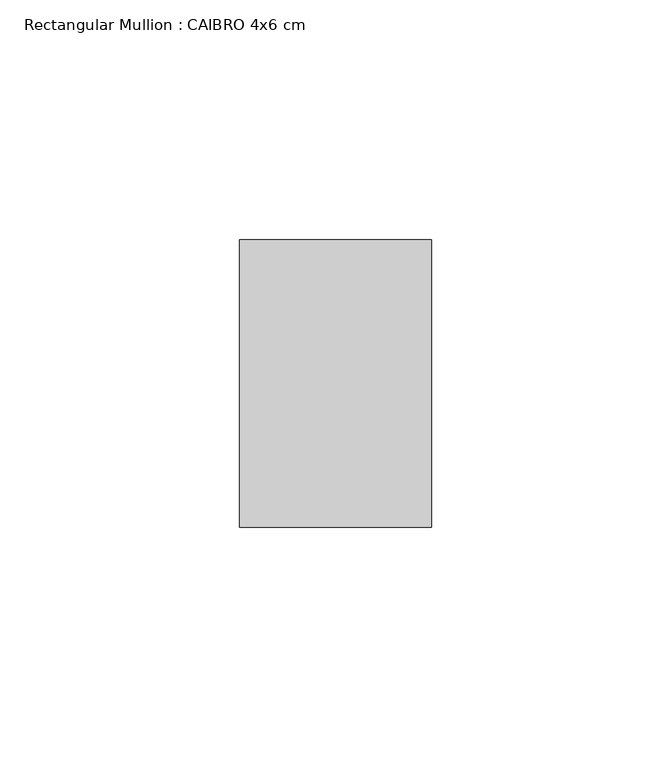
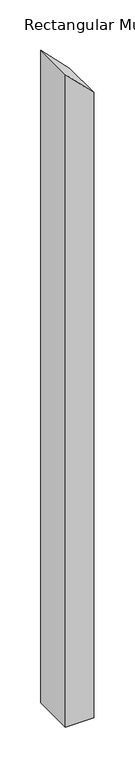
"""IFC4 building model written with IfcOpenShell, lengths in millimetres: member geometry, Rectangular Mullion : CAIBRO 4x6 cm."""

from ifc_helpers import new_model, si_unit, frame, origin, place, context, project, spatial, polyline, outline, extrude, source, transform, mapped, element, save


def rectangular_mullion_caibro_4x6_cm_8b7b774c(model_context):
    return source(origin(), model_context, "Body", "SweptSolid", [
        extrude(outline(polyline([(-77.109599, 20.0), (-36.6621022, -20.0), (-1009.5884118, -20.0), (-1009.5884118, 20.0), (-77.109599, 20.0)])), frame((0.0, 0.0, 0.0), z_axis=(0.0, 1.0, 0.0), x_axis=(0.0, 0.0, 1.0)), (0.0, 0.0, 1.0), 60.0),
    ])


if __name__ == "__main__":
    model = new_model("IFC4")
    model_context = context("Model", 3, world=origin())
    ifc_project = project(units=[si_unit("LENGTHUNIT", "METRE", prefix="MILLI")], contexts=[model_context])
    site = spatial("IfcSite", under=ifc_project)
    building = spatial("IfcBuilding", under=site)
    placement = place(None, origin())
    rectangular_mullion_caibro_4x6_cm_shape = rectangular_mullion_caibro_4x6_cm_8b7b774c(model_context)
    element("IfcMember", 1, ObjectType="Rectangular Mullion : CAIBRO 4x6 cm", at=placement, inside=building, context=model_context, shape_type="MappedRepresentation", body=[
        mapped(rectangular_mullion_caibro_4x6_cm_shape, transform((0.0, 0.0, 0.0), x_axis=(1.0, 0.0, 0.0), y_axis=(0.0, 1.0, 0.0), z_axis=(0.0, 0.0, 1.0))),
    ])
    save(model, "model.ifc")
